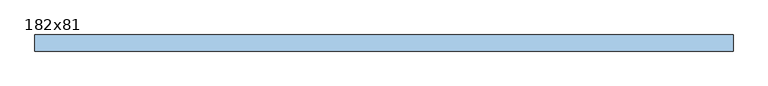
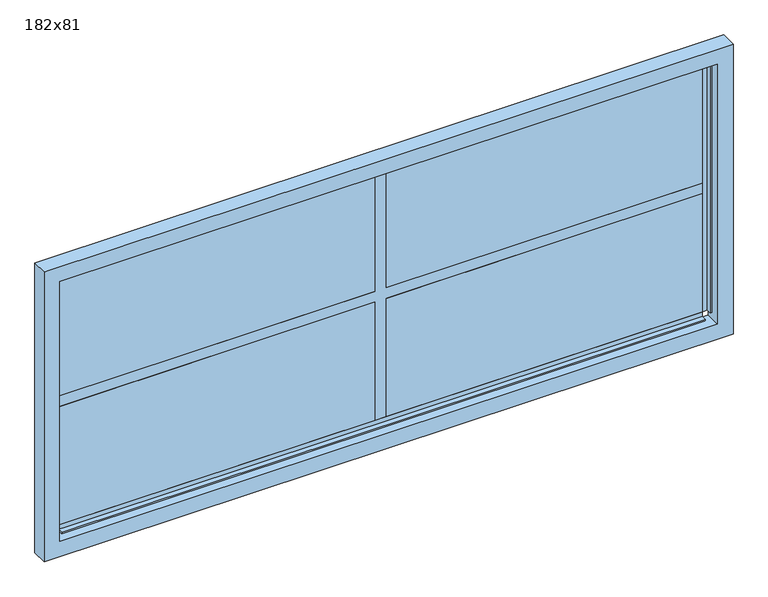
"""IFC4 building model written with IfcOpenShell, lengths in millimetres: window geometry, ARQ-VE-EX-Rejilla : 182x81."""

from ifc_helpers import new_model, si_unit, frame, origin, place, context, project, spatial, polyline, outline, extrude, source, transform, mapped, element, save


def window_182x81_cab7739a(model_context):
    return source(origin(), model_context, "Body", "SweptSolid", [
        extrude(outline(polyline([(-15.0, 337.0), (-850.0, 337.0), (-850.0, 342.0), (-15.0, 342.0), (-15.0, 337.0)])), frame((0.0, 0.0, 860.0), z_axis=(0.0, 0.0, 1.0), x_axis=(1.0, 0.0, 0.0)), (0.0, 0.0, 1.0), 330.0),
        extrude(outline(polyline([(850.0, 337.0), (15.0, 337.0), (15.0, 342.0), (850.0, 342.0), (850.0, 337.0)])), frame((0.0, 0.0, 860.0), z_axis=(0.0, 0.0, 1.0), x_axis=(1.0, 0.0, 0.0)), (0.0, 0.0, 1.0), 330.0),
        extrude(outline(polyline([(850.0, 337.0), (15.0, 337.0), (15.0, 342.0), (850.0, 342.0), (850.0, 337.0)])), frame((0.0, 0.0, 1220.0), z_axis=(0.0, 0.0, 1.0), x_axis=(1.0, 0.0, 0.0)), (0.0, 0.0, 1.0), 330.0),
        extrude(outline(polyline([(-15.0, 337.0), (-850.0, 337.0), (-850.0, 342.0), (-15.0, 342.0), (-15.0, 337.0)])), frame((0.0, 0.0, 1220.0), z_axis=(0.0, 0.0, 1.0), x_axis=(1.0, 0.0, 0.0)), (0.0, 0.0, 1.0), 330.0),
        extrude(outline(polyline([(1220.0, 15.0), (1550.0, 15.0), (1550.0, -15.0), (1220.0, -15.0), (1220.0, -850.0), (1190.0, -850.0), (1190.0, -15.0), (860.0, -15.0), (860.0, 15.0), (1190.0, 15.0), (1190.0, 850.0), (1220.0, 850.0), (1220.0, 15.0)])), frame((0.0, 337.0, 0.0), z_axis=(0.0, 1.0, 0.0), x_axis=(0.0, 0.0, 1.0)), (0.0, 0.0, 1.0), 5.0),
        extrude(outline(polyline([(1610.0, -910.0), (800.0, -910.0), (800.0, 910.0), (1610.0, 910.0), (1610.0, -910.0)]), holes=[polyline([(1568.0, -868.0), (1568.0, 868.0), (842.0, 868.0), (842.0, -868.0), (1568.0, -868.0)])]), frame((0.0, 300.0, 0.0), z_axis=(0.0, 1.0, 0.0), x_axis=(0.0, 0.0, 1.0)), (0.0, 0.0, 1.0), 42.0),
        extrude(outline(polyline([(324.0, 842.0), (324.0, 847.0), (337.0, 847.0), (337.0, 860.0), (342.0, 860.0), (342.0, 842.0), (324.0, 842.0)])), frame((-850.0, 0.0, 0.0), z_axis=(1.0, 0.0, 0.0), x_axis=(0.0, 1.0, 0.0)), (0.0, 0.0, 1.0), 1700.0),
        extrude(outline(polyline([(324.0, 1568.0), (342.0, 1568.0), (342.0, 1550.0), (337.0, 1550.0), (337.0, 1563.0), (324.0, 1563.0), (324.0, 1568.0)])), frame((-850.0, 0.0, 0.0), z_axis=(1.0, 0.0, 0.0), x_axis=(0.0, 1.0, 0.0)), (0.0, 0.0, 1.0), 1700.0),
        extrude(outline(polyline([(-868.0, 342.0), (-850.0, 342.0), (-850.0, 337.0), (-863.0, 337.0), (-863.0, 324.0), (-868.0, 324.0), (-868.0, 342.0)])), frame((0.0, 0.0, 860.0), z_axis=(0.0, 0.0, 1.0), x_axis=(1.0, 0.0, 0.0)), (0.0, 0.0, 1.0), 690.0),
        extrude(outline(polyline([(868.0, 342.0), (868.0, 324.0), (863.0, 324.0), (863.0, 337.0), (850.0, 337.0), (850.0, 342.0), (868.0, 342.0)])), frame((0.0, 0.0, 860.0), z_axis=(0.0, 0.0, 1.0), x_axis=(1.0, 0.0, 0.0)), (0.0, 0.0, 1.0), 690.0),
    ])


if __name__ == "__main__":
    model = new_model("IFC4")
    model_context = context("Model", 3, world=origin())
    ifc_project = project(units=[si_unit("LENGTHUNIT", "METRE", prefix="MILLI")], contexts=[model_context])
    site = spatial("IfcSite", under=ifc_project)
    building = spatial("IfcBuilding", under=site)
    placement = place(None, origin())
    window_182x81_shape = window_182x81_cab7739a(model_context)
    element("IfcWindow", 1, ObjectType="ARQ-VE-EX-Rejilla : 182x81", at=placement, inside=building, context=model_context, shape_type="MappedRepresentation", body=[
        mapped(window_182x81_shape, transform((0.0, 0.0, 0.0), x_axis=(1.0, 0.0, 0.0), y_axis=(0.0, 1.0, 0.0), z_axis=(0.0, 0.0, 1.0))),
    ])
    save(model, "model.ifc")
